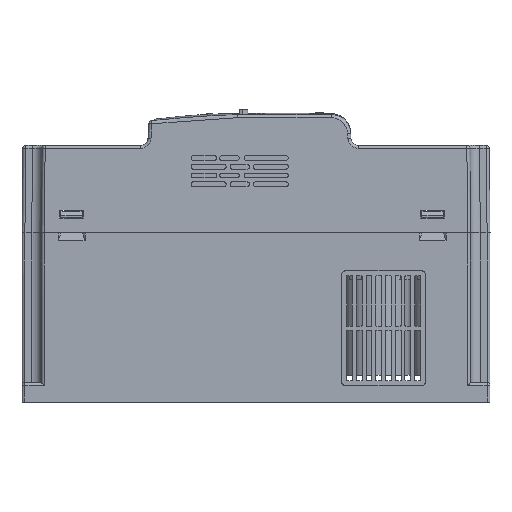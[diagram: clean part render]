
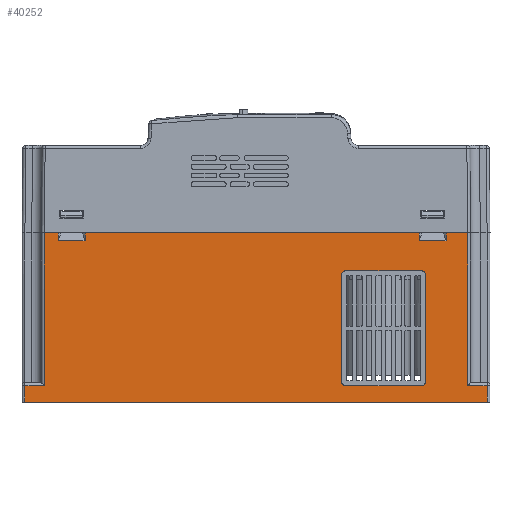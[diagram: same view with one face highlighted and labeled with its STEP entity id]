
A CAD part, left-side view. The second image highlights one B-rep face of the part: STEP entity #40252.
In plain terms, the highlighted planar face has unit normal (-1, 0, 0).
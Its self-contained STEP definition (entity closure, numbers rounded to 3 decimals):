
#7424=DIRECTION('',(0.,-1.,0.));
#7425=VECTOR('',#7424,7.1);
#7426=CARTESIAN_POINT('',(-2.95,149.9,10.1));
#7427=LINE('',#7426,#7425);
#8117=DIRECTION('',(0.,0.,1.));
#8118=VECTOR('',#8117,8.5);
#8119=CARTESIAN_POINT('',(-2.95,159.9,-76.9));
#8120=LINE('',#8119,#8118);
#8181=DIRECTION('',(0.,-1.,0.));
#8182=VECTOR('',#8181,10.);
#8183=CARTESIAN_POINT('',(-2.95,159.9,-68.4));
#8184=LINE('',#8183,#8182);
#8189=DIRECTION('',(0.,0.,1.));
#8190=VECTOR('',#8189,78.5);
#8191=CARTESIAN_POINT('',(-2.95,149.9,-68.4));
#8192=LINE('',#8191,#8190);
#8209=DIRECTION('',(0.,0.,1.));
#8210=VECTOR('',#8209,4.);
#8211=CARTESIAN_POINT('',(-2.95,142.8,6.1));
#8212=LINE('',#8211,#8210);
#8213=DIRECTION('',(0.,1.,0.));
#8214=VECTOR('',#8213,13.8);
#8215=CARTESIAN_POINT('',(-2.95,129.,6.1));
#8216=LINE('',#8215,#8214);
#8217=DIRECTION('',(0.,0.,-1.));
#8218=VECTOR('',#8217,4.);
#8219=CARTESIAN_POINT('',(-2.95,129.,10.1));
#8220=LINE('',#8219,#8218);
#8221=DIRECTION('',(0.,0.,1.));
#8222=VECTOR('',#8221,4.);
#8223=CARTESIAN_POINT('',(-2.95,-42.7,6.1));
#8224=LINE('',#8223,#8222);
#8225=DIRECTION('',(0.,1.,0.));
#8226=VECTOR('',#8225,13.8);
#8227=CARTESIAN_POINT('',(-2.95,-56.5,6.1));
#8228=LINE('',#8227,#8226);
#8229=DIRECTION('',(0.,0.,-1.));
#8230=VECTOR('',#8229,4.);
#8231=CARTESIAN_POINT('',(-2.95,-56.5,10.1));
#8232=LINE('',#8231,#8230);
#8233=DIRECTION('',(0.,-1.,0.));
#8234=VECTOR('',#8233,237.5);
#8235=CARTESIAN_POINT('',(-2.95,159.9,-76.9));
#8236=LINE('',#8235,#8234);
#8237=CARTESIAN_POINT('',(-2.95,-43.9,-11.4));
#8238=DIRECTION('',(1.,0.,0.));
#8239=DIRECTION('',(0.,0.,1.));
#8240=AXIS2_PLACEMENT_3D('',#8237,#8238,#8239);
#8242=DIRECTION('',(0.,-1.,0.));
#8243=VECTOR('',#8242,39.);
#8244=CARTESIAN_POINT('',(-2.95,-4.9,-9.4));
#8245=LINE('',#8244,#8243);
#8246=CARTESIAN_POINT('',(-2.95,-4.9,-11.4));
#8247=DIRECTION('',(1.,0.,0.));
#8248=DIRECTION('',(0.,1.,0.));
#8249=AXIS2_PLACEMENT_3D('',#8246,#8247,#8248);
#8251=DIRECTION('',(0.,0.,1.));
#8252=VECTOR('',#8251,55.);
#8253=CARTESIAN_POINT('',(-2.95,-2.9,-66.4));
#8254=LINE('',#8253,#8252);
#8255=CARTESIAN_POINT('',(-2.95,-4.9,-66.4));
#8256=DIRECTION('',(1.,0.,0.));
#8257=DIRECTION('',(0.,0.,-1.));
#8258=AXIS2_PLACEMENT_3D('',#8255,#8256,#8257);
#8260=DIRECTION('',(0.,1.,0.));
#8261=VECTOR('',#8260,39.);
#8262=CARTESIAN_POINT('',(-2.95,-43.9,-68.4));
#8263=LINE('',#8262,#8261);
#8264=CARTESIAN_POINT('',(-2.95,-43.9,-66.4));
#8265=DIRECTION('',(1.,0.,0.));
#8266=DIRECTION('',(0.,-1.,0.));
#8267=AXIS2_PLACEMENT_3D('',#8264,#8265,#8266);
#8269=DIRECTION('',(0.,0.,-1.));
#8270=VECTOR('',#8269,55.);
#8271=CARTESIAN_POINT('',(-2.95,-45.9,-11.4));
#8272=LINE('',#8271,#8270);
#8293=DIRECTION('',(0.,-1.,0.));
#8294=VECTOR('',#8293,171.7);
#8295=CARTESIAN_POINT('',(-2.95,129.,10.1));
#8296=LINE('',#8295,#8294);
#12110=DIRECTION('',(0.,-1.,0.));
#12111=VECTOR('',#12110,11.1);
#12112=CARTESIAN_POINT('',(-2.95,-56.5,10.1));
#12113=LINE('',#12112,#12111);
#12227=DIRECTION('',(0.,-1.,0.));
#12228=VECTOR('',#12227,10.);
#12229=CARTESIAN_POINT('',(-2.95,-67.6,-68.4));
#12230=LINE('',#12229,#12228);
#12244=DIRECTION('',(0.,0.,-1.));
#12245=VECTOR('',#12244,78.5);
#12246=CARTESIAN_POINT('',(-2.95,-67.6,10.1));
#12247=LINE('',#12246,#12245);
#12283=DIRECTION('',(0.,0.,-1.));
#12284=VECTOR('',#12283,8.5);
#12285=CARTESIAN_POINT('',(-2.95,-77.6,-68.4));
#12286=LINE('',#12285,#12284);
#24532=CARTESIAN_POINT('',(-2.95,159.9,-76.9));
#24534=VERTEX_POINT('',#24532);
#24546=CARTESIAN_POINT('',(-2.95,-77.6,-76.9));
#24547=VERTEX_POINT('',#24546);
#25200=CARTESIAN_POINT('',(-2.95,-56.5,10.1));
#25201=VERTEX_POINT('',#25200);
#25202=CARTESIAN_POINT('',(-2.95,-67.6,10.1));
#25203=VERTEX_POINT('',#25202);
#25224=CARTESIAN_POINT('',(-2.95,-67.6,-68.4));
#25225=VERTEX_POINT('',#25224);
#25226=CARTESIAN_POINT('',(-2.95,-77.6,-68.4));
#25227=VERTEX_POINT('',#25226);
#26952=CARTESIAN_POINT('',(-2.95,129.,10.1));
#26953=VERTEX_POINT('',#26952);
#26954=CARTESIAN_POINT('',(-2.95,-42.7,10.1));
#26955=VERTEX_POINT('',#26954);
#26992=CARTESIAN_POINT('',(-2.95,142.8,6.1));
#26993=VERTEX_POINT('',#26992);
#26994=CARTESIAN_POINT('',(-2.95,129.,6.1));
#26995=VERTEX_POINT('',#26994);
#26996=CARTESIAN_POINT('',(-2.95,159.9,-68.4));
#26997=VERTEX_POINT('',#26996);
#26998=CARTESIAN_POINT('',(-2.95,-56.5,6.1));
#26999=VERTEX_POINT('',#26998);
#27000=CARTESIAN_POINT('',(-2.95,-42.7,6.1));
#27001=VERTEX_POINT('',#27000);
#27002=CARTESIAN_POINT('',(-2.95,142.8,10.1));
#27003=VERTEX_POINT('',#27002);
#27004=CARTESIAN_POINT('',(-2.95,149.9,10.1));
#27005=VERTEX_POINT('',#27004);
#27006=CARTESIAN_POINT('',(-2.95,149.9,-68.4));
#27007=VERTEX_POINT('',#27006);
#27008=CARTESIAN_POINT('',(-2.95,-43.9,-9.4));
#27009=CARTESIAN_POINT('',(-2.95,-45.9,-11.4));
#27010=VERTEX_POINT('',#27008);
#27011=VERTEX_POINT('',#27009);
#27012=CARTESIAN_POINT('',(-2.95,-45.9,-66.4));
#27013=VERTEX_POINT('',#27012);
#27014=CARTESIAN_POINT('',(-2.95,-43.9,-68.4));
#27015=VERTEX_POINT('',#27014);
#27016=CARTESIAN_POINT('',(-2.95,-4.9,-68.4));
#27017=VERTEX_POINT('',#27016);
#27018=CARTESIAN_POINT('',(-2.95,-2.9,-66.4));
#27019=VERTEX_POINT('',#27018);
#27020=CARTESIAN_POINT('',(-2.95,-2.9,-11.4));
#27021=VERTEX_POINT('',#27020);
#27022=CARTESIAN_POINT('',(-2.95,-4.9,-9.4));
#27023=VERTEX_POINT('',#27022);
#40200=CARTESIAN_POINT('',(-2.95,161.4,10.1));
#40201=DIRECTION('',(1.,0.,0.));
#40202=DIRECTION('',(0.,-1.,0.));
#40203=AXIS2_PLACEMENT_3D('',#40200,#40201,#40202);
#40204=PLANE('',#40203);
#40205=ORIENTED_EDGE('',*,*,#40079,.T.);
#40206=ORIENTED_EDGE('',*,*,#40142,.T.);
#40207=ORIENTED_EDGE('',*,*,#40156,.T.);
#40208=ORIENTED_EDGE('',*,*,#39700,.T.);
#40210=ORIENTED_EDGE('',*,*,#40209,.F.);
#40212=ORIENTED_EDGE('',*,*,#40211,.F.);
#40214=ORIENTED_EDGE('',*,*,#40213,.F.);
#40216=ORIENTED_EDGE('',*,*,#40215,.T.);
#40218=ORIENTED_EDGE('',*,*,#40217,.F.);
#40220=ORIENTED_EDGE('',*,*,#40219,.F.);
#40222=ORIENTED_EDGE('',*,*,#40221,.F.);
#40224=ORIENTED_EDGE('',*,*,#40223,.T.);
#40226=ORIENTED_EDGE('',*,*,#40225,.T.);
#40228=ORIENTED_EDGE('',*,*,#40227,.T.);
#40230=ORIENTED_EDGE('',*,*,#40229,.T.);
#40231=ORIENTED_EDGE('',*,*,#35404,.F.);
#40232=EDGE_LOOP('',(#40205,#40206,#40207,#40208,#40210,#40212,#40214,#40216,
#40218,#40220,#40222,#40224,#40226,#40228,#40230,#40231));
#40233=FACE_OUTER_BOUND('',#40232,.F.);
#40235=ORIENTED_EDGE('',*,*,#40234,.F.);
#40237=ORIENTED_EDGE('',*,*,#40236,.F.);
#40239=ORIENTED_EDGE('',*,*,#40238,.F.);
#40241=ORIENTED_EDGE('',*,*,#40240,.F.);
#40243=ORIENTED_EDGE('',*,*,#40242,.F.);
#40245=ORIENTED_EDGE('',*,*,#40244,.F.);
#40247=ORIENTED_EDGE('',*,*,#40246,.F.);
#40249=ORIENTED_EDGE('',*,*,#40248,.F.);
#40250=EDGE_LOOP('',(#40235,#40237,#40239,#40241,#40243,#40245,#40247,#40249));
#40251=FACE_BOUND('',#40250,.F.);
#40252=ADVANCED_FACE('',(#40233,#40251),#40204,.F.);
#8241=CIRCLE('',#8240,2.);
#8250=CIRCLE('',#8249,2.);
#8259=CIRCLE('',#8258,2.);
#8268=CIRCLE('',#8267,2.);
#35404=EDGE_CURVE('',#24534,#24547,#8236,.T.);
#39700=EDGE_CURVE('',#27005,#27003,#7427,.T.);
#40079=EDGE_CURVE('',#24534,#26997,#8120,.T.);
#40142=EDGE_CURVE('',#26997,#27007,#8184,.T.);
#40156=EDGE_CURVE('',#27007,#27005,#8192,.T.);
#40209=EDGE_CURVE('',#26993,#27003,#8212,.T.);
#40211=EDGE_CURVE('',#26995,#26993,#8216,.T.);
#40213=EDGE_CURVE('',#26953,#26995,#8220,.T.);
#40215=EDGE_CURVE('',#26953,#26955,#8296,.T.);
#40217=EDGE_CURVE('',#27001,#26955,#8224,.T.);
#40219=EDGE_CURVE('',#26999,#27001,#8228,.T.);
#40221=EDGE_CURVE('',#25201,#26999,#8232,.T.);
#40223=EDGE_CURVE('',#25201,#25203,#12113,.T.);
#40225=EDGE_CURVE('',#25203,#25225,#12247,.T.);
#40227=EDGE_CURVE('',#25225,#25227,#12230,.T.);
#40229=EDGE_CURVE('',#25227,#24547,#12286,.T.);
#40234=EDGE_CURVE('',#27010,#27011,#8241,.T.);
#40236=EDGE_CURVE('',#27023,#27010,#8245,.T.);
#40238=EDGE_CURVE('',#27021,#27023,#8250,.T.);
#40240=EDGE_CURVE('',#27019,#27021,#8254,.T.);
#40242=EDGE_CURVE('',#27017,#27019,#8259,.T.);
#40244=EDGE_CURVE('',#27015,#27017,#8263,.T.);
#40246=EDGE_CURVE('',#27013,#27015,#8268,.T.);
#40248=EDGE_CURVE('',#27011,#27013,#8272,.T.);
